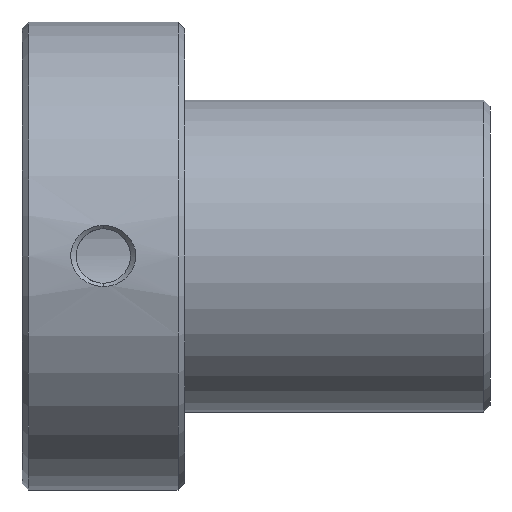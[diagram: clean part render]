
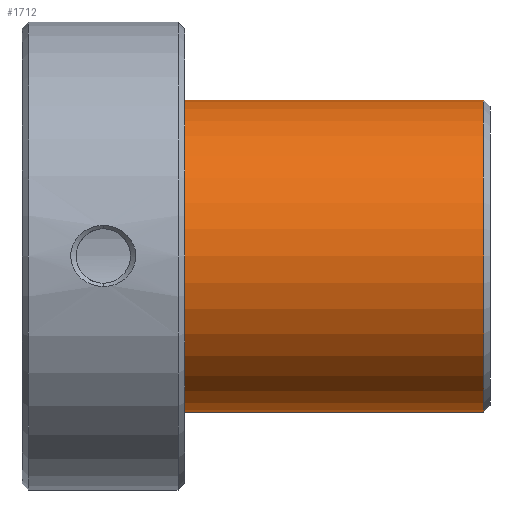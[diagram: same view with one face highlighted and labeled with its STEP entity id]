
A CAD part, front view. The second image highlights one B-rep face of the part: STEP entity #1712.
In plain terms, the highlighted cylindrical face has radius 24 mm (diameter 48 mm), a partial arc.
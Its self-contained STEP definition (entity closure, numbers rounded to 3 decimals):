
#894=CARTESIAN_POINT('Vertex',(25.,0.,-24.)) ;
#899=CARTESIAN_POINT('Axis2P3D Location',(25.,0.,0.)) ;
#903=CARTESIAN_POINT('Vertex',(25.,-24.,0.)) ;
#906=CARTESIAN_POINT('Axis2P3D Location',(25.,0.,0.)) ;
#910=CARTESIAN_POINT('Vertex',(25.,0.,24.)) ;
#1652=CARTESIAN_POINT('Line Origine',(72.,0.,24.)) ;
#1656=CARTESIAN_POINT('Vertex',(71.,0.,24.)) ;
#1670=CARTESIAN_POINT('Vertex',(71.,0.,-24.)) ;
#1673=CARTESIAN_POINT('Line Origine',(72.,0.,-24.)) ;
#1687=CARTESIAN_POINT('Axis2P3D Location',(72.,0.,0.)) ;
#1692=CARTESIAN_POINT('Axis2P3D Location',(71.,0.,0.)) ;
#1696=CARTESIAN_POINT('Vertex',(71.,-24.,0.)) ;
#1699=CARTESIAN_POINT('Axis2P3D Location',(71.,0.,0.)) ;
#900=DIRECTION('Axis2P3D Direction',(1.,0.,-0.)) ;
#907=DIRECTION('Axis2P3D Direction',(1.,0.,-0.)) ;
#1653=DIRECTION('Vector Direction',(-1.,0.,0.)) ;
#1674=DIRECTION('Vector Direction',(-1.,0.,0.)) ;
#1688=DIRECTION('Axis2P3D Direction',(-1.,-0.,-0.)) ;
#1689=DIRECTION('Axis2P3D XDirection',(0.,0.,-1.)) ;
#1693=DIRECTION('Axis2P3D Direction',(-1.,-0.,-0.)) ;
#1700=DIRECTION('Axis2P3D Direction',(-1.,-0.,-0.)) ;
#901=AXIS2_PLACEMENT_3D('Circle Axis2P3D',#899,#900,$) ;
#908=AXIS2_PLACEMENT_3D('Circle Axis2P3D',#906,#907,$) ;
#1690=AXIS2_PLACEMENT_3D('Cylinder Axis2P3D',#1687,#1688,#1689) ;
#1694=AXIS2_PLACEMENT_3D('Circle Axis2P3D',#1692,#1693,$) ;
#1701=AXIS2_PLACEMENT_3D('Circle Axis2P3D',#1699,#1700,$) ;
#1705=ORIENTED_EDGE('',*,*,#1677,.T.) ;
#1706=ORIENTED_EDGE('',*,*,#1698,.F.) ;
#1707=ORIENTED_EDGE('',*,*,#1703,.F.) ;
#1708=ORIENTED_EDGE('',*,*,#1658,.T.) ;
#1709=ORIENTED_EDGE('',*,*,#912,.T.) ;
#1710=ORIENTED_EDGE('',*,*,#905,.T.) ;
#1654=VECTOR('Line Direction',#1653,1.) ;
#1675=VECTOR('Line Direction',#1674,1.) ;
#1712=ADVANCED_FACE('345-30',(#1711),#1691,.T.) ;
#902=CIRCLE('generated circle',#901,24.) ;
#909=CIRCLE('generated circle',#908,24.) ;
#1695=CIRCLE('generated circle',#1694,24.) ;
#1702=CIRCLE('generated circle',#1701,24.) ;
#1691=CYLINDRICAL_SURFACE('generated cylinder',#1690,24.) ;
#905=EDGE_CURVE('',#904,#895,#902,.T.) ;
#912=EDGE_CURVE('',#911,#904,#909,.T.) ;
#1658=EDGE_CURVE('',#1657,#911,#1655,.T.) ;
#1677=EDGE_CURVE('',#895,#1671,#1676,.F.) ;
#1698=EDGE_CURVE('',#1697,#1671,#1695,.F.) ;
#1703=EDGE_CURVE('',#1657,#1697,#1702,.F.) ;
#1704=EDGE_LOOP('',(#1705,#1706,#1707,#1708,#1709,#1710)) ;
#1711=FACE_OUTER_BOUND('',#1704,.T.) ;
#1655=LINE('Line',#1652,#1654) ;
#1676=LINE('Line',#1673,#1675) ;
#895=VERTEX_POINT('',#894) ;
#904=VERTEX_POINT('',#903) ;
#911=VERTEX_POINT('',#910) ;
#1657=VERTEX_POINT('',#1656) ;
#1671=VERTEX_POINT('',#1670) ;
#1697=VERTEX_POINT('',#1696) ;
